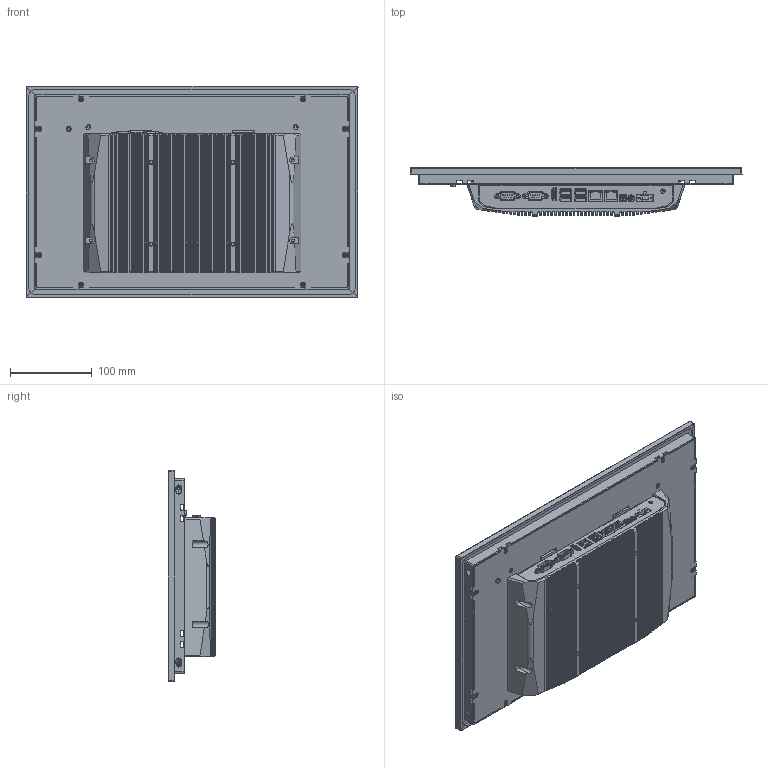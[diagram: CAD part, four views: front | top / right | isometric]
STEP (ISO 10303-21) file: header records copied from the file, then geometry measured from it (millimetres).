
FILE_DESCRIPTION (( 'STEP AP214' ), '1' );
FILE_NAME ('panel5000-c156-l.STEP', '2023-06-01T02:22:49', ( 'i' ), ( 'Microsoft' ), 'SwSTEP 2.0', 'SolidWorks 2016', '' );
FILE_SCHEMA (( 'AUTOMOTIVE_DESIGN' ));
Length unit declared in the file: millimetre
Products named in the file (1): panel5000-c156-l
Bounding box: 405 x 58.5 x 258 mm (x, y, z)
Surface area: 418240.8 mm2 (no closed solid volume)
Topology: 0 solids, 81 shells, 2416 faces, 9583 edges, 6940 vertices
Faces by surface type: plane 1541, cylinder 742, cone 77, bspline 24, sphere 22, torus 10
Entity records: 127200 total; most frequent: CARTESIAN_POINT 24036, ORIENTED_EDGE 15231, DIRECTION 14939, EDGE_CURVE 9547, VECTOR 6931, LINE 6931, VERTEX_POINT 6925, AXIS2_PLACEMENT_3D 4004
